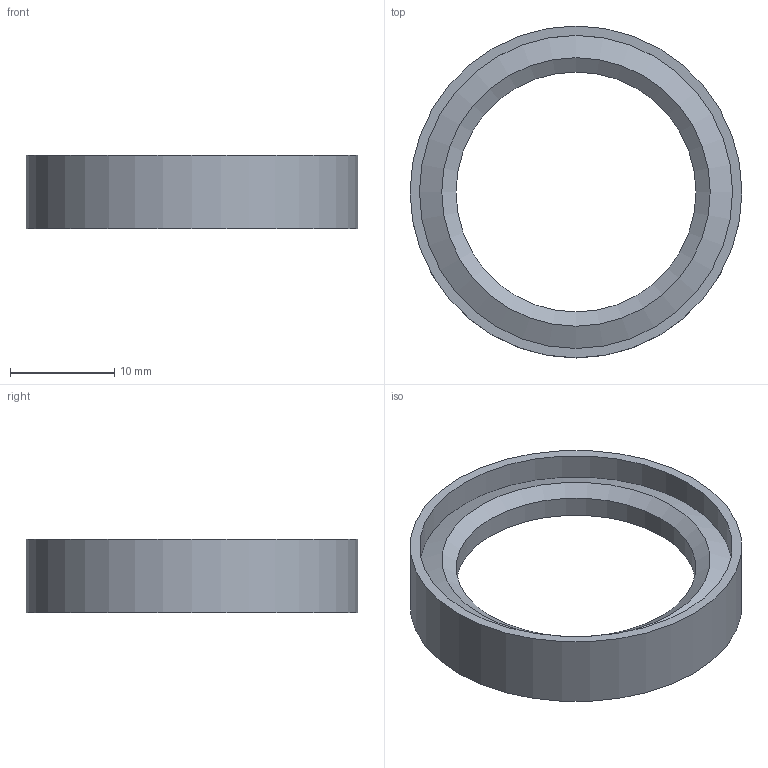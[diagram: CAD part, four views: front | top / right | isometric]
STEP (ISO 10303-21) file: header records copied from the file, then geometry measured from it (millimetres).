
FILE_DESCRIPTION( ( 'Unknown' ), '1' );
FILE_NAME( 'X:/Daten ( aktueller Bestand )/Projekte und Zeichnungen/Solid Edge/4 Dichtungsbauteile und Zubehör/1291.stp', 'Unknown', ( 'Unknown' ), ( 'Unknown' ), 'XStep 1.0', 'Unknown', ' ' );
FILE_SCHEMA( ( 'automotive_design' ) );
Length unit declared in the file: millimetre
Products named in the file (1): 1
Bounding box: 31.8 x 31.8 x 7 mm (x, y, z)
Volume: 1454 mm3; surface area: 2145.8 mm2
Topology: 1 solids, 1 shells, 10 faces, 18 edges, 10 vertices
Faces by surface type: cylinder 4, cone 4, plane 2
Full cylindrical faces by diameter (mm): 23 x1, 30 x2, 31.8 x1
Entity records: 304 total; most frequent: DIRECTION 42, CARTESIAN_POINT 31, AXIS2_PLACEMENT_3D 21, EDGE_LOOP 20, ORIENTED_EDGE 20, FACE_OUTER_BOUND 14, STYLED_ITEM 10, PRESENTATION_STYLE_ASSIGNMENT 10
